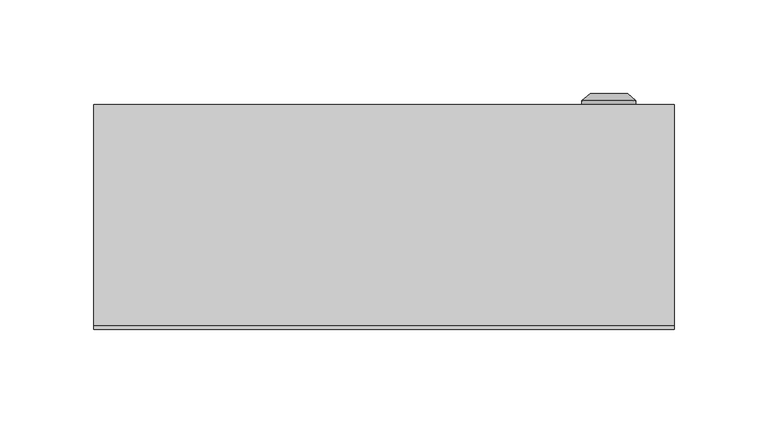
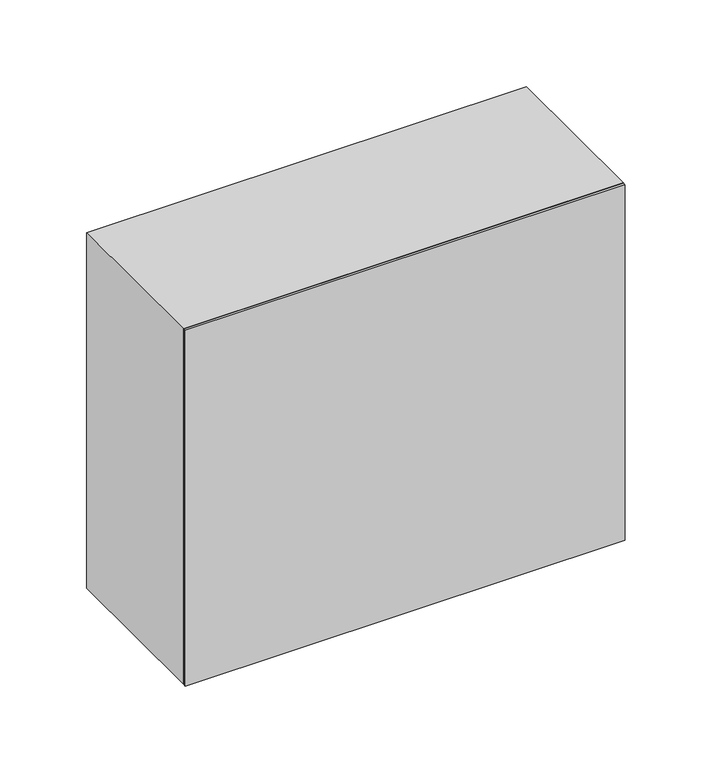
"""IFC4 building model written with IfcOpenShell, lengths in millimetres: proxy geometry, ЩРН_9-12 : ЩРН-09."""

from ifc_helpers import new_model, si_unit, frame, origin, origin_with_axes, place, context, project, spatial, polyline, circle_curve, outline, extrude, source, transform, mapped, element, save
from ifc_brep_helpers import plane_surface, cylinder_surface, revolved_surface, advanced_brep


def electrical_equipment_fc4410ef(model_context):
    return source(origin(), model_context, "Body", "SolidModel", [
        advanced_brep(
        [(105.669873, 120.0, 127.5), (134.330127, 120.0, 127.5), (120.0, 120.0, 127.5), (105.669873, 122.366592, 127.5), (134.330127, 122.366592, 127.5), (110.0, 126.0, 127.5), (130.0, 126.0, 127.5), (118.1080471, 126.0, 127.5), (121.8919529, 126.0, 127.5), (118.1080471, 124.9822294, 127.5), (121.8919529, 124.9822294, 127.5), (120.0, 124.9822294, 127.5)],
        [
            (0, 1, circle_curve(frame((120.0, 120.0, 127.5), z_axis=(0.0, -1.0, 0.0), x_axis=(1.0, 0.0, 0.0)), 14.330127)),
            (1, 2),
            (2, 0),
            (1, 0, circle_curve(frame((120.0, 120.0, 127.5), z_axis=(0.0, -1.0, 0.0), x_axis=(1.0, 0.0, 0.0)), 14.330127)),
            (3, 4, circle_curve(frame((120.0, 122.366592, 127.5), z_axis=(0.0, -1.0, 0.0), x_axis=(1.0, 0.0, 0.0)), 14.330127)),
            (4, 1),
            (0, 3),
            (4, 3, circle_curve(frame((120.0, 122.366592, 127.5), z_axis=(0.0, -1.0, 0.0), x_axis=(1.0, 0.0, 0.0)), 14.330127)),
            (5, 6, circle_curve(frame((120.0, 126.0, 127.5), z_axis=(0.0, -1.0, 0.0), x_axis=(1.0, 0.0, 0.0)), 10.0)),
            (6, 4),
            (3, 5),
            (6, 5, circle_curve(frame((120.0, 126.0, 127.5), z_axis=(0.0, -1.0, 0.0), x_axis=(1.0, 0.0, 0.0)), 10.0)),
            (7, 8, circle_curve(frame((120.0, 126.0, 127.5), z_axis=(0.0, -1.0, 0.0), x_axis=(1.0, 0.0, 0.0)), 1.8919529)),
            (8, 6),
            (5, 7),
            (8, 7, circle_curve(frame((120.0, 126.0, 127.5), z_axis=(0.0, -1.0, 0.0), x_axis=(1.0, 0.0, 0.0)), 1.8919529)),
            (9, 10, circle_curve(frame((120.0, 124.9822294, 127.5), z_axis=(0.0, -1.0, 0.0), x_axis=(1.0, 0.0, 0.0)), 1.8919529)),
            (10, 8),
            (7, 9),
            (10, 9, circle_curve(frame((120.0, 124.9822294, 127.5), z_axis=(0.0, -1.0, 0.0), x_axis=(1.0, 0.0, 0.0)), 1.8919529)),
            (11, 10),
            (9, 11),
        ],
        [
            plane_surface(frame((120.0, 120.0, 127.5), z_axis=(0.0, -1.0, 0.0), x_axis=(1.0, 0.0, 0.0))),
            cylinder_surface(frame((120.0, 133.1348851, 127.5), z_axis=(0.0, 1.0, 0.0), x_axis=(1.0, 0.0, 0.0)), 14.330127),
            revolved_surface(polyline([(134.330127, 122.366592, 127.5), (130.0, 126.0, 127.5)]), (120.0, 133.1348851, 127.5), (0.0, 1.0, 0.0)),
            plane_surface(frame((120.0, 126.0, 127.5), z_axis=(0.0, 1.0, 0.0), x_axis=(1.0, 0.0, 0.0))),
            revolved_surface(polyline([(121.8919529, 126.0, 127.5), (121.8919529, 124.9822294, 127.5)]), (120.0, 133.1348851, 127.5), (0.0, 1.0, 0.0)),
            plane_surface(frame((120.0, 124.9822294, 127.5), z_axis=(0.0, 1.0, 0.0), x_axis=(1.0, 0.0, 0.0))),
        ],
        [
            (0, [[1, 2, 3]]),
            (0, [[4, -3, -2]]),
            (1, [[5, 6, -1, 7]]),
            (1, [[8, -7, -4, -6]]),
            (2, [[9, 10, -5, 11]]),
            (2, [[12, -11, -8, -10]]),
            (3, [[13, 14, -9, 15]]),
            (3, [[16, -15, -12, -14]]),
            (4, [[17, 18, -13, 19]]),
            (4, [[20, -19, -16, -18]]),
            (5, [[21, -17, 22]]),
            (5, [[-22, -20, -21]]),
        ],
    ),
        extrude(outline(polyline([(149.0, 95.0), (-149.0, 95.0), (-149.0, 120.0), (149.0, 120.0), (149.0, 95.0)])), frame((0.0, 0.0, 6.0), z_axis=(0.0, 0.0, 1.0), x_axis=(1.0, 0.0, 0.0)), (0.0, 0.0, 1.0), 253.0),
        extrude(outline(polyline([(265.0, -155.0033905), (0.0, -155.0033905), (0.0, 154.9966095), (265.0, 154.9966095), (265.0, -155.0033905)]), holes=[polyline([(260.0, -150.0), (260.0, 150.0), (5.0, 150.0), (5.0, -150.0), (260.0, -150.0)])]), frame((0.0, 2.0, 0.0), z_axis=(0.0, 1.0, 0.0), x_axis=(0.0, 0.0, 1.0)), (0.0, 0.0, 1.0), 118.0),
        extrude(outline(polyline([(155.0, 0.0), (-155.0, 0.0), (-155.0, 2.0), (155.0, 2.0), (155.0, 0.0)])), origin_with_axes(), (0.0, 0.0, 1.0), 265.0),
    ])


if __name__ == "__main__":
    model = new_model("IFC4")
    model_context = context("Model", 3, world=origin())
    ifc_project = project(units=[si_unit("LENGTHUNIT", "METRE", prefix="MILLI")], contexts=[model_context])
    site = spatial("IfcSite", under=ifc_project)
    building = spatial("IfcBuilding", under=site)
    placement = place(None, origin())
    electrical_equipment_shape = electrical_equipment_fc4410ef(model_context)
    element("IfcBuildingElementProxy", 1, Name="ЩРН_9-12 : ЩРН-09", ObjectType="ЩРН_9-12 : ЩРН-09", at=placement, inside=building, context=model_context, shape_type="MappedRepresentation", body=[
        mapped(electrical_equipment_shape, transform((0.0, 0.0, 0.0), x_axis=(1.0, 0.0, 0.0), y_axis=(0.0, 1.0, 0.0), z_axis=(0.0, 0.0, 1.0))),
    ])
    save(model, "model.ifc")
